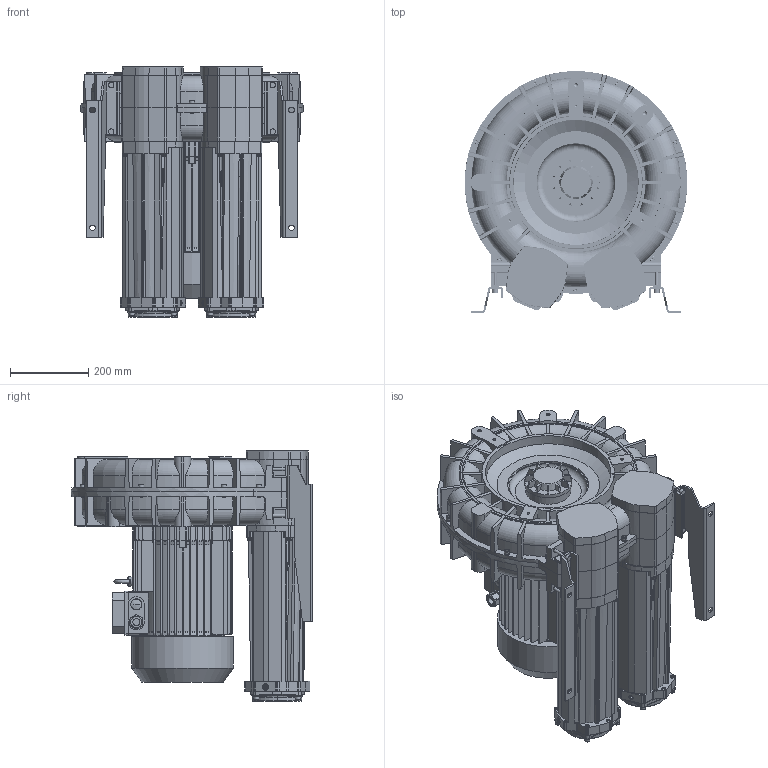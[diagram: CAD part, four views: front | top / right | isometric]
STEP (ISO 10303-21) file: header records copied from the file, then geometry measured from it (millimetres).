
FILE_DESCRIPTION (( 'STEP AP203' ), '1' );
FILE_NAME ('STP-L_e_12_MS_MOR_IE3WR_132_15.0kW-3_24-00.step', '2025-01-15T09:24:18', ( '' ), ( '' ), 'SwSTEP 2.0', 'SolidWorks 2024', '' );
FILE_SCHEMA (( 'CONFIG_CONTROL_DESIGN' ));
Length unit declared in the file: millimetre
Products named in the file (1): STP-L_e_12_MS_MOR_IE3WR_132_15.0kW-3_24-00
Bounding box: 568 x 616 x 638 mm (x, y, z)
Volume: 67739250.3 mm3; surface area: 3815242.5 mm2
Topology: 83 solids, 83 shells, 5950 faces, 15347 edges, 9581 vertices
Faces by surface type: plane 2096, cylinder 1980, bspline 826, torus 501, cone 490, sphere 57
Full cylindrical faces by diameter (mm): 6.8 x24, 7.5 x8, 8 x33, 8.4 x29, 8.5 x10, 8.566 x2, 8.8 x4, 9.98 x2, 10 x3, 11 x8, 12 x2, 12.02 x2, 13 x46, 14 x14, 16 x4, 16.5 x2, 18 x1, 19 x1, 20 x2, 21.4 x1, 24 x4, 25 x3, 28 x1, 110.4 x2, 115 x2, 120 x1, 128 x2, 207 x4, 213 x1, 259 x1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
Entity records: 280207 total; most frequent: CARTESIAN_POINT 146063, ORIENTED_EDGE 29284, DIRECTION 25880, EDGE_CURVE 14642, AXIS2_PLACEMENT_3D 9864, VERTEX_POINT 9376, EDGE_LOOP 6620, FACE_OUTER_BOUND 6247
